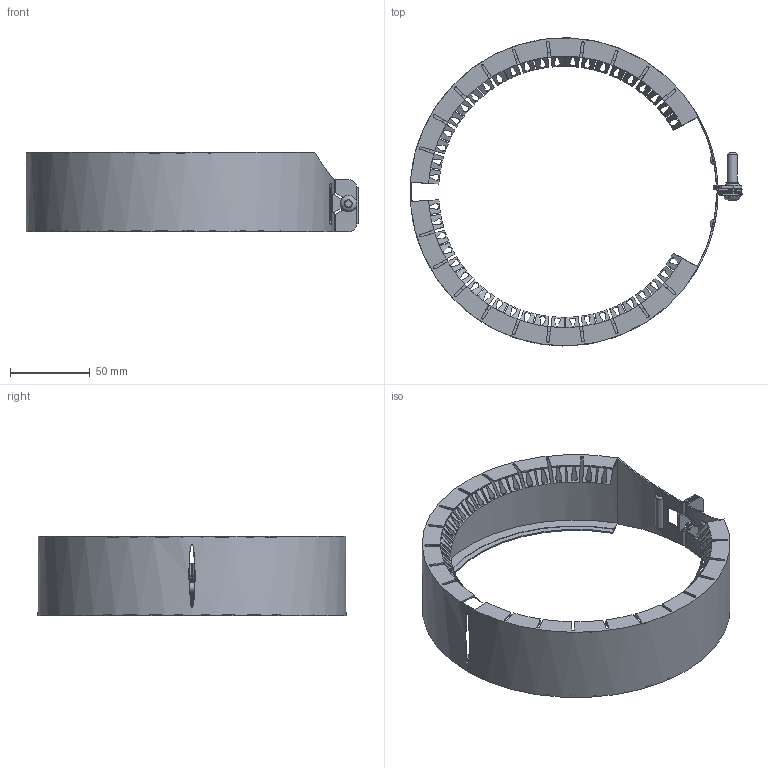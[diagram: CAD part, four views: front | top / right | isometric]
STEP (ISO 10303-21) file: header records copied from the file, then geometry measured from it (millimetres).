
FILE_DESCRIPTION(/* description */ (''),/* implementation_level */ '2;1');
FILE_NAME(/* name */ 'H:\Geberit-Teile\Export\Haltekralle\stp\390708.stp',/* time_stamp */ '2016-03-31T11:29:43+02:00',/* author */ ('seihe2'),/* organization */ (''),/* preprocessor_version */ 'ST-DEVELOPER v15.2',/* originating_system */ 'Autodesk Inventor 2014',/* authorisation */ '');
FILE_SCHEMA (('AUTOMOTIVE_DESIGN { 1 0 10303 214 3 1 1 }'));
Length unit declared in the file: millimetre
Products named in the file (1): 390708
Bounding box: 207.7 x 192.69 x 50 mm (x, y, z)
Volume: 45887.8 mm3; surface area: 134557 mm2
Topology: 1 solids, 1 shells, 703 faces, 2120 edges, 1371 vertices
Faces by surface type: plane 369, cylinder 208, cone 111, bspline 10, torus 5
Full cylindrical faces by diameter (mm): 6 x1, 8 x1, 10.5 x1
Entity records: 26890 total; most frequent: CARTESIAN_POINT 8194, ORIENTED_EDGE 4220, DIRECTION 3409, EDGE_CURVE 2110, VERTEX_POINT 1367, AXIS2_PLACEMENT_3D 1199, LINE 1011, VECTOR 1011
